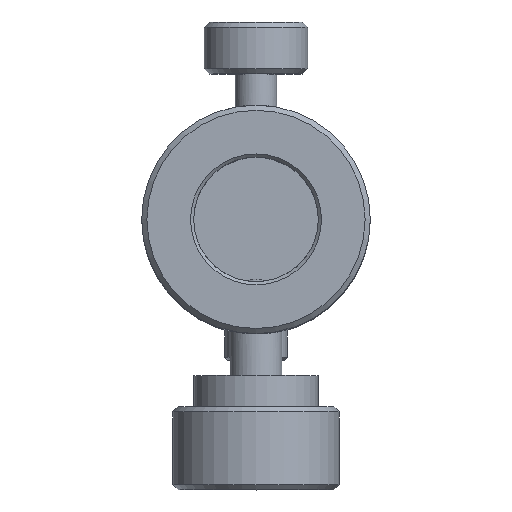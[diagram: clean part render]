
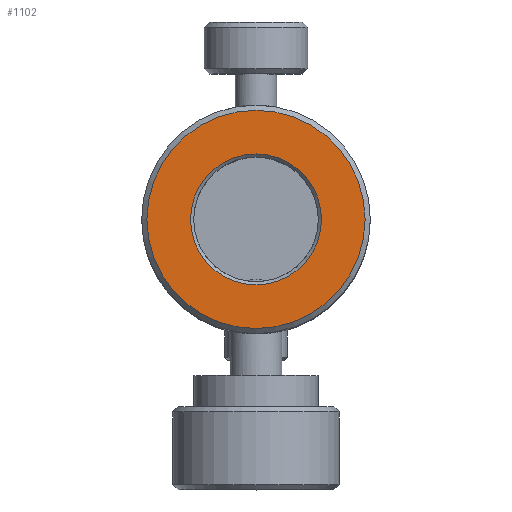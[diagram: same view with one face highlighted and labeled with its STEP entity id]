
A CAD part, top view. The second image highlights one B-rep face of the part: STEP entity #1102.
In plain terms, the highlighted planar face has unit normal (0, 0, 1).
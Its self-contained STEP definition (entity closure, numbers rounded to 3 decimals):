
#19=FACE_BOUND('',#176,.T.);
#56=PLANE('',#1217);
#96=FACE_OUTER_BOUND('',#175,.T.);
#175=EDGE_LOOP('',(#748));
#176=EDGE_LOOP('',(#749));
#271=CIRCLE('',#1216,6.3);
#272=CIRCLE('',#1218,10.5);
#475=VERTEX_POINT('',#1815);
#476=VERTEX_POINT('',#1819);
#575=EDGE_CURVE('',#475,#475,#271,.T.);
#577=EDGE_CURVE('',#476,#476,#272,.T.);
#748=ORIENTED_EDGE('',*,*,#577,.F.);
#749=ORIENTED_EDGE('',*,*,#575,.F.);
#1102=ADVANCED_FACE('',(#96,#19),#56,.F.);
#1216=AXIS2_PLACEMENT_3D('',#1816,#1404,#1405);
#1217=AXIS2_PLACEMENT_3D('',#1818,#1407,#1408);
#1218=AXIS2_PLACEMENT_3D('',#1820,#1409,#1410);
#1404=DIRECTION('center_axis',(0.,0.,1.));
#1405=DIRECTION('ref_axis',(1.,0.,0.));
#1407=DIRECTION('center_axis',(0.,0.,-1.));
#1408=DIRECTION('ref_axis',(1.,0.,0.));
#1409=DIRECTION('center_axis',(0.,0.,-1.));
#1410=DIRECTION('ref_axis',(1.,0.,0.));
#1815=CARTESIAN_POINT('',(-6.3,0.,38.));
#1816=CARTESIAN_POINT('Origin',(0.,0.,38.));
#1818=CARTESIAN_POINT('Origin',(0.,0.,38.));
#1819=CARTESIAN_POINT('',(-10.5,0.,38.));
#1820=CARTESIAN_POINT('Origin',(0.,0.,38.));
